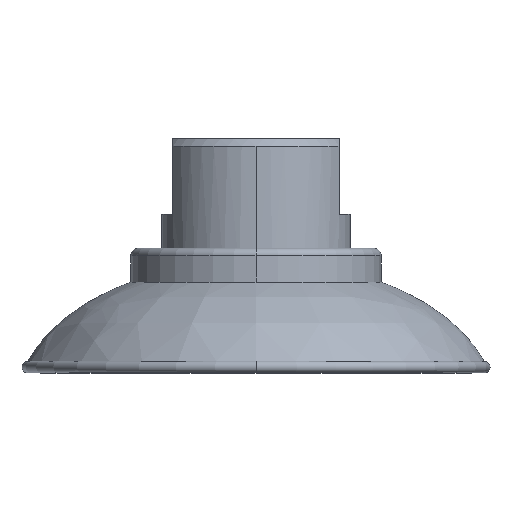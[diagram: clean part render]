
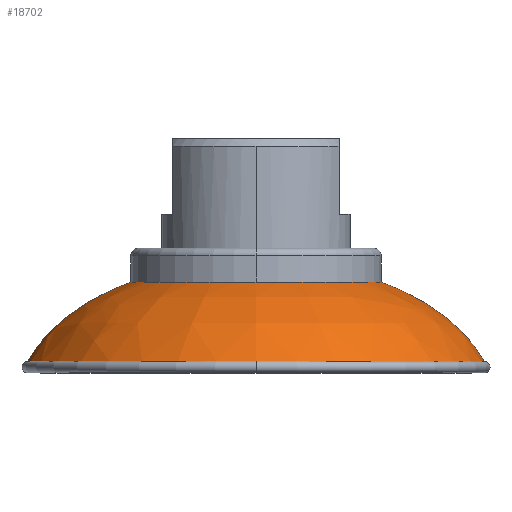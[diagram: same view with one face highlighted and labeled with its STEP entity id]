
A CAD part, top view. The second image highlights one B-rep face of the part: STEP entity #18702.
In plain terms, the highlighted free-form (B-spline) face has degree [3, 3] with [4, 4] control points.
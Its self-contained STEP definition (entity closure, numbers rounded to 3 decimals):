
#175 = DIRECTION ( 'NONE',  ( 0., 0., 1. ) ) ;
#217 = CARTESIAN_POINT ( 'NONE',  ( 20.222, -5.717, 0. ) ) ;
#434 = CARTESIAN_POINT ( 'NONE',  ( 16.6, -4.5, 0. ) ) ;
#466 = DIRECTION ( 'NONE',  ( 0., 0., 1. ) ) ;
#1975 = EDGE_LOOP ( 'NONE', ( #18035, #9943, #3799, #5011, #19027, #3032 ) ) ;
#2078 =( BOUNDED_SURFACE ( )  B_SPLINE_SURFACE ( 3, 3, ( 
 ( #7462, #3843, #12280, #5488 ),
 ( #7393, #10632, #20833, #9148 ),
 ( #7171, #2134, #4056, #3916 ),
 ( #7250, #5558, #2202, #20686 ) ),
 .UNSPECIFIED., .F., .F., .T. ) 
 B_SPLINE_SURFACE_WITH_KNOTS ( ( 4, 4 ),
 ( 4, 4 ),
 ( 0., 1. ),
 ( 0., 1. ),
 .UNSPECIFIED. ) 
 GEOMETRIC_REPRESENTATION_ITEM ( )  RATIONAL_B_SPLINE_SURFACE ( (
 ( 1., 0.333, 0.333, 1.),
 ( 1., 0.333, 0.333, 1.),
 ( 1., 0.333, 0.333, 1.),
 ( 1., 0.333, 0.333, 1.) ) ) 
 REPRESENTATION_ITEM ( '' )  SURFACE ( )  );
#2134 = CARTESIAN_POINT ( 'NONE',  ( -20.222, -5.717, 40.444 ) ) ;
#2151 = CIRCLE ( 'NONE', #9192, 30.25 ) ;
#2202 = CARTESIAN_POINT ( 'NONE',  ( 16.6, -4.5, 33.2 ) ) ;
#2287 = EDGE_CURVE ( 'NONE', #2492, #16203, #13420, .T. ) ;
#2344 = CARTESIAN_POINT ( 'NONE',  ( -16.6, -4.5, 0. ) ) ;
#2492 = VERTEX_POINT ( 'NONE', #16015 ) ;
#2640 = B_SPLINE_CURVE_WITH_KNOTS ( 'NONE', 3,
 ( #3909, #12423, #17354, #2344 ),
 .UNSPECIFIED., .F., .F.,
 ( 4, 4 ),
 ( 0., 1. ),
 .UNSPECIFIED. ) ;
#3015 = DIRECTION ( 'NONE',  ( 0., 0., 1. ) ) ;
#3032 = ORIENTED_EDGE ( 'NONE', *, *, #9364, .F. ) ;
#3729 = FACE_OUTER_BOUND ( 'NONE', #1975, .T. ) ;
#3799 = ORIENTED_EDGE ( 'NONE', *, *, #8061, .T. ) ;
#3843 = CARTESIAN_POINT ( 'NONE',  ( -30.25, -15., 60.5 ) ) ;
#3909 = CARTESIAN_POINT ( 'NONE',  ( -30.25, -15., 0. ) ) ;
#3916 = CARTESIAN_POINT ( 'NONE',  ( 20.222, -5.717, 0. ) ) ;
#4056 = CARTESIAN_POINT ( 'NONE',  ( 20.222, -5.717, 40.444 ) ) ;
#5011 = ORIENTED_EDGE ( 'NONE', *, *, #2287, .T. ) ;
#5488 = CARTESIAN_POINT ( 'NONE',  ( 30.25, -15., 0. ) ) ;
#5558 = CARTESIAN_POINT ( 'NONE',  ( -16.6, -4.5, 33.2 ) ) ;
#5859 = CARTESIAN_POINT ( 'NONE',  ( 0., -4.5, 0. ) ) ;
#6608 = CARTESIAN_POINT ( 'NONE',  ( -16.6, -4.5, 0. ) ) ;
#7117 = CARTESIAN_POINT ( 'NONE',  ( 30.25, -15., 0. ) ) ;
#7171 = CARTESIAN_POINT ( 'NONE',  ( -20.222, -5.717, 0. ) ) ;
#7250 = CARTESIAN_POINT ( 'NONE',  ( -16.6, -4.5, 0. ) ) ;
#7393 = CARTESIAN_POINT ( 'NONE',  ( -27.113, -9.147, 0. ) ) ;
#7462 = CARTESIAN_POINT ( 'NONE',  ( -30.25, -15., 0. ) ) ;
#7551 = DIRECTION ( 'NONE',  ( 0., 0., 1. ) ) ;
#8061 = EDGE_CURVE ( 'NONE', #21883, #2492, #8938, .T. ) ;
#8893 = CIRCLE ( 'NONE', #16897, 16.6 ) ;
#8938 = CIRCLE ( 'NONE', #19142, 30.25 ) ;
#8959 = EDGE_CURVE ( 'NONE', #11382, #16203, #14976, .T. ) ;
#9044 = CARTESIAN_POINT ( 'NONE',  ( 0., -15., 0. ) ) ;
#9148 = CARTESIAN_POINT ( 'NONE',  ( 27.113, -9.147, 0. ) ) ;
#9192 = AXIS2_PLACEMENT_3D ( 'NONE', #20427, #10299, #175 ) ;
#9222 = CARTESIAN_POINT ( 'NONE',  ( 16.6, -4.5, 0. ) ) ;
#9364 = EDGE_CURVE ( 'NONE', #18450, #11382, #8893, .T. ) ;
#9943 = ORIENTED_EDGE ( 'NONE', *, *, #16980, .T. ) ;
#10299 = DIRECTION ( 'NONE',  ( 0., 1., 0. ) ) ;
#10632 = CARTESIAN_POINT ( 'NONE',  ( -27.113, -9.147, 54.226 ) ) ;
#10645 = DIRECTION ( 'NONE',  ( 0., 1., 0. ) ) ;
#10890 = EDGE_CURVE ( 'NONE', #18965, #18450, #2640, .T. ) ;
#11382 = VERTEX_POINT ( 'NONE', #14627 ) ;
#12280 = CARTESIAN_POINT ( 'NONE',  ( 30.25, -15., 60.5 ) ) ;
#12423 = CARTESIAN_POINT ( 'NONE',  ( -27.113, -9.147, 0. ) ) ;
#12996 = CARTESIAN_POINT ( 'NONE',  ( -30.25, -15., 0. ) ) ;
#13165 = DIRECTION ( 'NONE',  ( 0., 1., 0. ) ) ;
#13187 = CARTESIAN_POINT ( 'NONE',  ( 0., -15., 30.25 ) ) ;
#13420 = B_SPLINE_CURVE_WITH_KNOTS ( 'NONE', 3,
 ( #7117, #15661, #217, #434 ),
 .UNSPECIFIED., .F., .F.,
 ( 4, 4 ),
 ( 0., 1. ),
 .UNSPECIFIED. ) ;
#14627 = CARTESIAN_POINT ( 'NONE',  ( 0., -4.5, 16.6 ) ) ;
#14976 = CIRCLE ( 'NONE', #17437, 16.6 ) ;
#15661 = CARTESIAN_POINT ( 'NONE',  ( 27.113, -9.147, 0. ) ) ;
#16015 = CARTESIAN_POINT ( 'NONE',  ( 30.25, -15., 0. ) ) ;
#16203 = VERTEX_POINT ( 'NONE', #9222 ) ;
#16897 = AXIS2_PLACEMENT_3D ( 'NONE', #19719, #13165, #3015 ) ;
#16980 = EDGE_CURVE ( 'NONE', #18965, #21883, #2151, .T. ) ;
#17354 = CARTESIAN_POINT ( 'NONE',  ( -20.222, -5.717, 0. ) ) ;
#17437 = AXIS2_PLACEMENT_3D ( 'NONE', #5859, #10645, #7551 ) ;
#18035 = ORIENTED_EDGE ( 'NONE', *, *, #10890, .F. ) ;
#18450 = VERTEX_POINT ( 'NONE', #6608 ) ;
#18702 = ADVANCED_FACE ( 'NONE', ( #3729 ), #2078, .F. ) ;
#18965 = VERTEX_POINT ( 'NONE', #12996 ) ;
#19027 = ORIENTED_EDGE ( 'NONE', *, *, #8959, .F. ) ;
#19142 = AXIS2_PLACEMENT_3D ( 'NONE', #9044, #20646, #466 ) ;
#19719 = CARTESIAN_POINT ( 'NONE',  ( 0., -4.5, 0. ) ) ;
#20427 = CARTESIAN_POINT ( 'NONE',  ( 0., -15., 0. ) ) ;
#20646 = DIRECTION ( 'NONE',  ( 0., 1., 0. ) ) ;
#20686 = CARTESIAN_POINT ( 'NONE',  ( 16.6, -4.5, 0. ) ) ;
#20833 = CARTESIAN_POINT ( 'NONE',  ( 27.113, -9.147, 54.226 ) ) ;
#21883 = VERTEX_POINT ( 'NONE', #13187 ) ;
